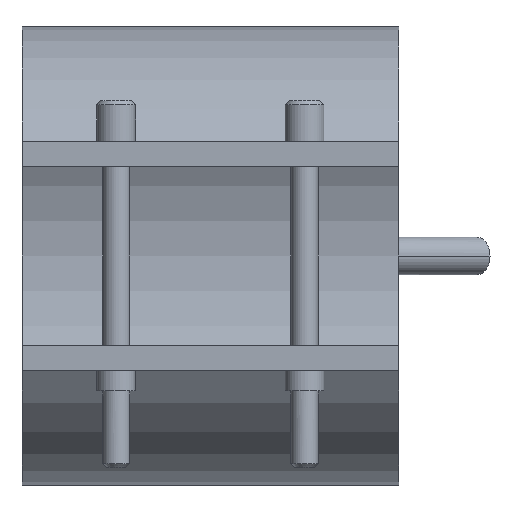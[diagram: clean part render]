
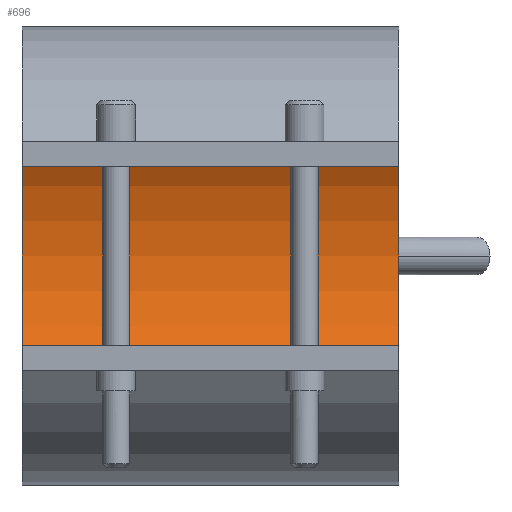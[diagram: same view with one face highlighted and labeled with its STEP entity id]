
A CAD part, front view. The second image highlights one B-rep face of the part: STEP entity #696.
In plain terms, the highlighted cylindrical face has radius 32.5 mm (diameter 65 mm), a partial arc.
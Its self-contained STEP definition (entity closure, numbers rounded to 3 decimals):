
#366=CARTESIAN_POINT('Vertex',(30.,0.,32.5)) ;
#371=CARTESIAN_POINT('Axis2P3D Location',(30.,0.,0.)) ;
#375=CARTESIAN_POINT('Vertex',(30.,0.,-32.5)) ;
#482=CARTESIAN_POINT('Vertex',(-30.,0.,-32.5)) ;
#485=CARTESIAN_POINT('Axis2P3D Location',(-30.,0.,0.)) ;
#489=CARTESIAN_POINT('Vertex',(-30.,0.,32.5)) ;
#668=CARTESIAN_POINT('Line Origine',(30.,0.,32.5)) ;
#680=CARTESIAN_POINT('Axis2P3D Location',(30.,0.,0.)) ;
#685=CARTESIAN_POINT('Line Origine',(30.,0.,-32.5)) ;
#372=DIRECTION('Axis2P3D Direction',(1.,0.,0.)) ;
#486=DIRECTION('Axis2P3D Direction',(1.,0.,0.)) ;
#669=DIRECTION('Vector Direction',(1.,0.,0.)) ;
#681=DIRECTION('Axis2P3D Direction',(1.,0.,-0.)) ;
#682=DIRECTION('Axis2P3D XDirection',(0.,0.,-1.)) ;
#686=DIRECTION('Vector Direction',(1.,0.,0.)) ;
#373=AXIS2_PLACEMENT_3D('Circle Axis2P3D',#371,#372,$) ;
#487=AXIS2_PLACEMENT_3D('Circle Axis2P3D',#485,#486,$) ;
#683=AXIS2_PLACEMENT_3D('Cylinder Axis2P3D',#680,#681,#682) ;
#691=ORIENTED_EDGE('',*,*,#377,.T.) ;
#692=ORIENTED_EDGE('',*,*,#672,.T.) ;
#693=ORIENTED_EDGE('',*,*,#491,.F.) ;
#694=ORIENTED_EDGE('',*,*,#689,.T.) ;
#670=VECTOR('Line Direction',#669,1.) ;
#687=VECTOR('Line Direction',#686,1.) ;
#696=ADVANCED_FACE('29065060',(#695),#684,.F.) ;
#374=CIRCLE('generated circle',#373,32.5) ;
#488=CIRCLE('generated circle',#487,32.5) ;
#684=CYLINDRICAL_SURFACE('generated cylinder',#683,32.5) ;
#377=EDGE_CURVE('',#376,#367,#374,.T.) ;
#491=EDGE_CURVE('',#483,#490,#488,.T.) ;
#672=EDGE_CURVE('',#367,#490,#671,.F.) ;
#689=EDGE_CURVE('',#483,#376,#688,.T.) ;
#690=EDGE_LOOP('',(#691,#692,#693,#694)) ;
#695=FACE_OUTER_BOUND('',#690,.T.) ;
#671=LINE('Line',#668,#670) ;
#688=LINE('Line',#685,#687) ;
#367=VERTEX_POINT('',#366) ;
#376=VERTEX_POINT('',#375) ;
#483=VERTEX_POINT('',#482) ;
#490=VERTEX_POINT('',#489) ;
